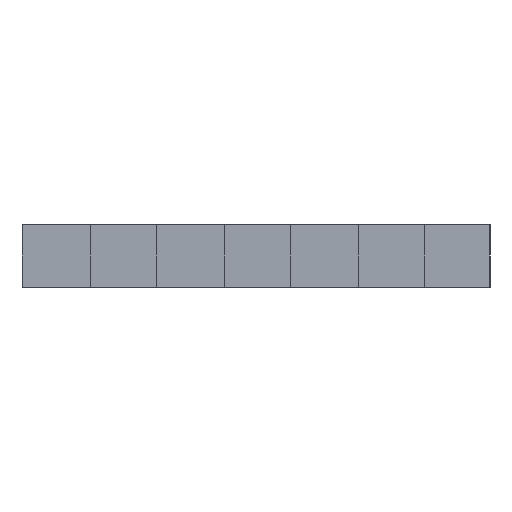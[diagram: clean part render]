
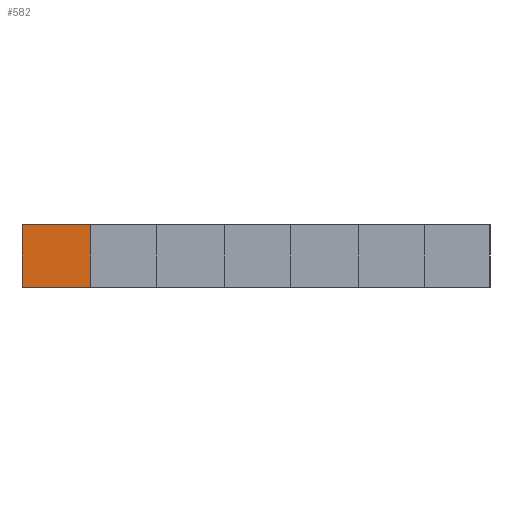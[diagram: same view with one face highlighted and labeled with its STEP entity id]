
A CAD part, left-side view. The second image highlights one B-rep face of the part: STEP entity #582.
In plain terms, the highlighted free-form (B-spline) face has degree [1, 1] with [2, 2] control points.
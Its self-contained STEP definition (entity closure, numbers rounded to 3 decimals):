
#582=ADVANCED_FACE('',(#798),#2840,.T.);
#798=FACE_OUTER_BOUND('',#983,.T.);
#983=EDGE_LOOP('',(#1364,#1365,#1366,#1367));
#1364=ORIENTED_EDGE('',*,*,#2248,.F.);
#1365=ORIENTED_EDGE('',*,*,#2247,.F.);
#1366=ORIENTED_EDGE('',*,*,#2246,.T.);
#1367=ORIENTED_EDGE('',*,*,#2079,.T.);
#2079=EDGE_CURVE('',#2535,#2536,#4977,.T.);
#2246=EDGE_CURVE('',#2687,#2535,#5144,.T.);
#2247=EDGE_CURVE('',#2687,#2688,#5145,.T.);
#2248=EDGE_CURVE('',#2688,#2536,#5146,.T.);
#2535=VERTEX_POINT('',#4521);
#2536=VERTEX_POINT('',#4522);
#2687=VERTEX_POINT('',#4673);
#2688=VERTEX_POINT('',#4674);
#2840=B_SPLINE_SURFACE_WITH_KNOTS('',1,1,((#3954,#3955),(#3956,#3957)),.UNSPECIFIED.,
.F.,.F.,.F.,(2,2),(2,2),(0.,20.),(0.,22.),.UNSPECIFIED.);
#3008=CARTESIAN_POINT('',(0.,150.,0.));
#3009=CARTESIAN_POINT('',(0.,128.,0.));
#3342=CARTESIAN_POINT('',(0.,150.,20.));
#3343=CARTESIAN_POINT('',(0.,150.,0.));
#3344=CARTESIAN_POINT('',(0.,150.,20.));
#3345=CARTESIAN_POINT('',(0.,128.,20.));
#3346=CARTESIAN_POINT('',(0.,128.,20.));
#3347=CARTESIAN_POINT('',(0.,128.,0.));
#3954=CARTESIAN_POINT('',(0.,128.,0.));
#3955=CARTESIAN_POINT('',(0.,150.,0.));
#3956=CARTESIAN_POINT('',(0.,128.,20.));
#3957=CARTESIAN_POINT('',(0.,150.,20.));
#4521=CARTESIAN_POINT('',(0.,150.,0.));
#4522=CARTESIAN_POINT('',(0.,128.,0.));
#4673=CARTESIAN_POINT('',(0.,150.,20.));
#4674=CARTESIAN_POINT('',(0.,128.,20.));
#4977=B_SPLINE_CURVE_WITH_KNOTS('',1,(#3008,#3009),.UNSPECIFIED.,.F.,.F.,
(2,2),(-22.,0.),.UNSPECIFIED.);
#5144=B_SPLINE_CURVE_WITH_KNOTS('',1,(#3342,#3343),.UNSPECIFIED.,.F.,.F.,
(2,2),(-20.,0.),.UNSPECIFIED.);
#5145=B_SPLINE_CURVE_WITH_KNOTS('',1,(#3344,#3345),.UNSPECIFIED.,.F.,.F.,
(2,2),(-22.,0.),.UNSPECIFIED.);
#5146=B_SPLINE_CURVE_WITH_KNOTS('',1,(#3346,#3347),.UNSPECIFIED.,.F.,.F.,
(2,2),(-20.,0.),.UNSPECIFIED.);
